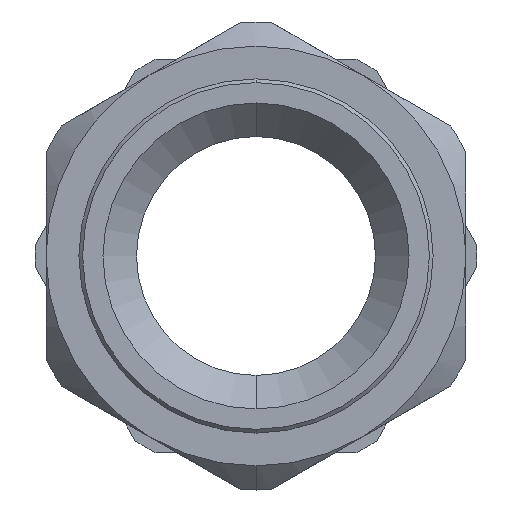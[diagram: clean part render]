
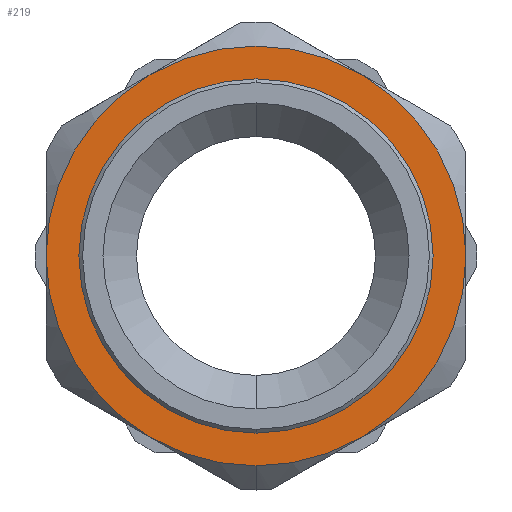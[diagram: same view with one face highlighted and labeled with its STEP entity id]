
A CAD part, front view. The second image highlights one B-rep face of the part: STEP entity #219.
In plain terms, the highlighted planar face has unit normal (0, -1, 0).
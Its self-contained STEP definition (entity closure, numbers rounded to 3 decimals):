
#13 = EDGE_CURVE ( 'NONE', #2050, #1997, #1751, .T. ) ;
#21 = EDGE_CURVE ( 'NONE', #1200, #2010, #1745, .T. ) ;
#22 = EDGE_CURVE ( 'NONE', #2020, #2445, #1744, .T. ) ;
#26 = EDGE_CURVE ( 'NONE', #2007, #2050, #1809, .T. ) ;
#29 = EDGE_CURVE ( 'NONE', #2010, #2007, #1808, .T. ) ;
#37 = EDGE_CURVE ( 'NONE', #638, #633, #1800, .T. ) ;
#75 = EDGE_CURVE ( 'NONE', #2445, #1200, #1835, .T. ) ;
#91 = EDGE_CURVE ( 'NONE', #1997, #2020, #1837, .T. ) ;
#143 = EDGE_CURVE ( 'NONE', #633, #638, #1848, .T. ) ;
#219 = ADVANCED_FACE ( 'NONE', ( #535, #539 ), #1388, .F. ) ;
#254 = AXIS2_PLACEMENT_3D ( 'NONE', #702, #706, #707 ) ;
#258 = AXIS2_PLACEMENT_3D ( 'NONE', #693, #694, #695 ) ;
#274 = AXIS2_PLACEMENT_3D ( 'NONE', #690, #691, #692 ) ;
#283 = AXIS2_PLACEMENT_3D ( 'NONE', #719, #720, #721 ) ;
#350 = AXIS2_PLACEMENT_3D ( 'NONE', #955, #959, #960 ) ;
#360 = AXIS2_PLACEMENT_3D ( 'NONE', #884, #885, #886 ) ;
#404 = AXIS2_PLACEMENT_3D ( 'NONE', #750, #751, #752 ) ;
#407 = AXIS2_PLACEMENT_3D ( 'NONE', #1118, #1128, #1129 ) ;
#416 = AXIS2_PLACEMENT_3D ( 'NONE', #659, #660, #661 ) ;
#535 = FACE_BOUND ( 'NONE', #1951, .T. ) ;
#539 = FACE_OUTER_BOUND ( 'NONE', #1952, .T. ) ;
#541 = AXIS2_PLACEMENT_3D ( 'NONE', #1389, #1390, #1391 ) ;
#633 = VERTEX_POINT ( 'NONE', #1412 ) ;
#638 = VERTEX_POINT ( 'NONE', #1417 ) ;
#659 = CARTESIAN_POINT ( 'NONE',  ( 0., 1., 0. ) ) ;
#660 = DIRECTION ( 'NONE',  ( 0., -1., 0. ) ) ;
#661 = DIRECTION ( 'NONE',  ( 0., 0., -1. ) ) ;
#690 = CARTESIAN_POINT ( 'NONE',  ( 0., 1., 0. ) ) ;
#691 = DIRECTION ( 'NONE',  ( 0., -1., 0. ) ) ;
#692 = DIRECTION ( 'NONE',  ( 0., 0., -1. ) ) ;
#693 = CARTESIAN_POINT ( 'NONE',  ( 0., 1., 0. ) ) ;
#694 = DIRECTION ( 'NONE',  ( 0., -1., 0. ) ) ;
#695 = DIRECTION ( 'NONE',  ( 0., 0., -1. ) ) ;
#702 = CARTESIAN_POINT ( 'NONE',  ( 0., 1., 0. ) ) ;
#706 = DIRECTION ( 'NONE',  ( 0., -1., 0. ) ) ;
#707 = DIRECTION ( 'NONE',  ( 0., 0., -1. ) ) ;
#719 = CARTESIAN_POINT ( 'NONE',  ( 0., 1., 0. ) ) ;
#720 = DIRECTION ( 'NONE',  ( 0., -1., 0. ) ) ;
#721 = DIRECTION ( 'NONE',  ( 0., 0., -1. ) ) ;
#750 = CARTESIAN_POINT ( 'NONE',  ( 0., 1., 0. ) ) ;
#751 = DIRECTION ( 'NONE',  ( 0., -1., 0. ) ) ;
#752 = DIRECTION ( 'NONE',  ( 0., 0., -1. ) ) ;
#884 = CARTESIAN_POINT ( 'NONE',  ( 0., 1., 0. ) ) ;
#885 = DIRECTION ( 'NONE',  ( 0., -1., 0. ) ) ;
#886 = DIRECTION ( 'NONE',  ( 0., 0., -1. ) ) ;
#955 = CARTESIAN_POINT ( 'NONE',  ( 0., 1., 0. ) ) ;
#959 = DIRECTION ( 'NONE',  ( 0., -1., 0. ) ) ;
#960 = DIRECTION ( 'NONE',  ( 0., 0., -1. ) ) ;
#1118 = CARTESIAN_POINT ( 'NONE',  ( 0., 1., 0. ) ) ;
#1128 = DIRECTION ( 'NONE',  ( 0., -1., 0. ) ) ;
#1129 = DIRECTION ( 'NONE',  ( 0., 0., -1. ) ) ;
#1200 = VERTEX_POINT ( 'NONE', #1425 ) ;
#1388 = PLANE ( 'NONE',  #541 ) ;
#1389 = CARTESIAN_POINT ( 'NONE',  ( -31.05, 1., 0. ) ) ;
#1390 = DIRECTION ( 'NONE',  ( 0., 1., 0. ) ) ;
#1391 = DIRECTION ( 'NONE',  ( 0., 0., 1. ) ) ;
#1412 = CARTESIAN_POINT ( 'NONE',  ( 0., 1., -23.5 ) ) ;
#1417 = CARTESIAN_POINT ( 'NONE',  ( 0., 1., 23.5 ) ) ;
#1425 = CARTESIAN_POINT ( 'NONE',  ( 13.925, 1., -24.119 ) ) ;
#1619 = CARTESIAN_POINT ( 'NONE',  ( -27.85, 1., 0. ) ) ;
#1629 = CARTESIAN_POINT ( 'NONE',  ( 13.925, 1., 24.119 ) ) ;
#1631 = CARTESIAN_POINT ( 'NONE',  ( 27.85, 1., 0. ) ) ;
#1641 = CARTESIAN_POINT ( 'NONE',  ( -13.925, 1., -24.119 ) ) ;
#1671 = CARTESIAN_POINT ( 'NONE',  ( -13.925, 1., 24.119 ) ) ;
#1689 = CARTESIAN_POINT ( 'NONE',  ( 0., 1., -27.85 ) ) ;
#1744 = CIRCLE ( 'NONE', #258, 27.85 ) ;
#1745 = CIRCLE ( 'NONE', #274, 27.85 ) ;
#1751 = CIRCLE ( 'NONE', #416, 27.85 ) ;
#1800 = CIRCLE ( 'NONE', #404, 23.5 ) ;
#1808 = CIRCLE ( 'NONE', #283, 27.85 ) ;
#1809 = CIRCLE ( 'NONE', #254, 27.85 ) ;
#1835 = CIRCLE ( 'NONE', #360, 27.85 ) ;
#1837 = CIRCLE ( 'NONE', #350, 27.85 ) ;
#1848 = CIRCLE ( 'NONE', #407, 23.5 ) ;
#1951 = EDGE_LOOP ( 'NONE', ( #2201, #2195 ) ) ;
#1952 = EDGE_LOOP ( 'NONE', ( #2074, #2199, #2202, #2206, #2194, #2193, #2192 ) ) ;
#1997 = VERTEX_POINT ( 'NONE', #1619 ) ;
#2007 = VERTEX_POINT ( 'NONE', #1629 ) ;
#2010 = VERTEX_POINT ( 'NONE', #1631 ) ;
#2020 = VERTEX_POINT ( 'NONE', #1641 ) ;
#2050 = VERTEX_POINT ( 'NONE', #1671 ) ;
#2074 = ORIENTED_EDGE ( 'NONE', *, *, #29, .T. ) ;
#2192 = ORIENTED_EDGE ( 'NONE', *, *, #21, .T. ) ;
#2193 = ORIENTED_EDGE ( 'NONE', *, *, #75, .T. ) ;
#2194 = ORIENTED_EDGE ( 'NONE', *, *, #22, .T. ) ;
#2195 = ORIENTED_EDGE ( 'NONE', *, *, #37, .F. ) ;
#2199 = ORIENTED_EDGE ( 'NONE', *, *, #26, .T. ) ;
#2201 = ORIENTED_EDGE ( 'NONE', *, *, #143, .F. ) ;
#2202 = ORIENTED_EDGE ( 'NONE', *, *, #13, .T. ) ;
#2206 = ORIENTED_EDGE ( 'NONE', *, *, #91, .T. ) ;
#2445 = VERTEX_POINT ( 'NONE', #1689 ) ;
